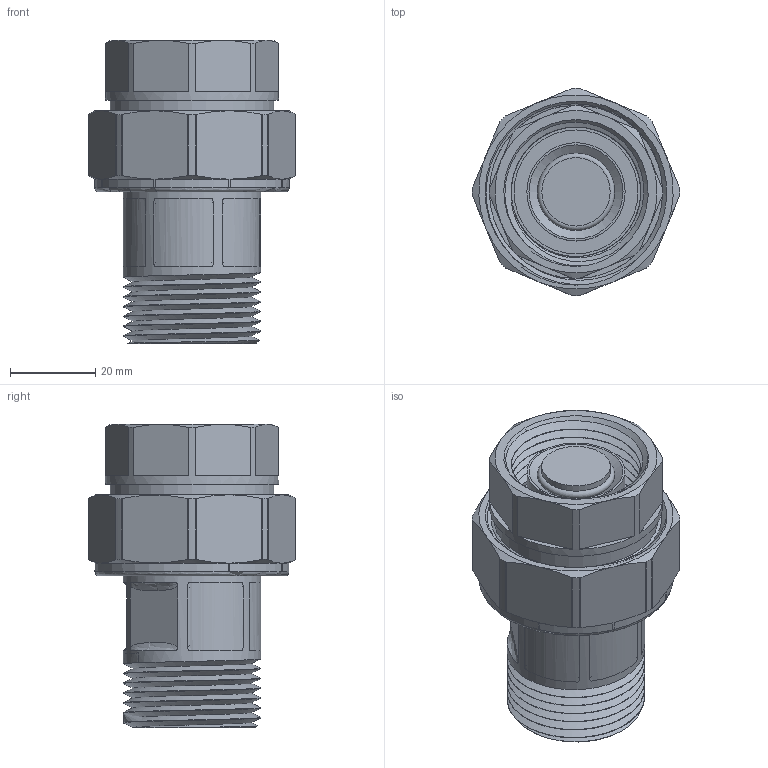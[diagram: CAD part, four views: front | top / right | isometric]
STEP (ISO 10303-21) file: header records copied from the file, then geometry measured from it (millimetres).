
FILE_DESCRIPTION(/* description */ (''),/* implementation_level */ '2;1');
FILE_NAME(/* name */ 'H:\Мишенин_3D\Исходные файлы 3D\VT.538.N.06.stp',/* time_stamp */ '2019-02-11T10:39:08+03:00',/* author */ ('MisheninAL'),/* organization */ (''),/* preprocessor_version */ 'ST-DEVELOPER v17',/* originating_system */ 'Autodesk Inventor 2019',/* authorisation */ '');
FILE_SCHEMA (('AUTOMOTIVE_DESIGN { 1 0 10303 214 3 1 1 }'));
Length unit declared in the file: millimetre
Products named in the file (1): VT.538.N.06
Bounding box: 48.5 x 48.5 x 71 mm (x, y, z)
Volume: 50588.9 mm3; surface area: 40184.2 mm2
Topology: 6 solids, 10 shells, 345 faces, 1015 edges, 687 vertices
Faces by surface type: plane 146, cylinder 124, bspline 32, cone 31, torus 12
Full cylindrical faces by diameter (mm): 3.4 x2, 4 x2, 4.5 x2, 14.5 x2, 16 x4, 16.2 x2, 19.2 x2, 23 x1, 25 x2, 29 x1, 29.6 x2, 30.3 x5, 32.2 x8, 32.8 x2, 33 x2, 34 x1, 38.3 x1, 38.5 x1, 39 x4, 40.5 x1, 42 x4
Entity records: 22154 total; most frequent: CARTESIAN_POINT 13286, ORIENTED_EDGE 2030, DIRECTION 1609, EDGE_CURVE 1015, VERTEX_POINT 687, AXIS2_PLACEMENT_3D 591, LINE 427, VECTOR 427
